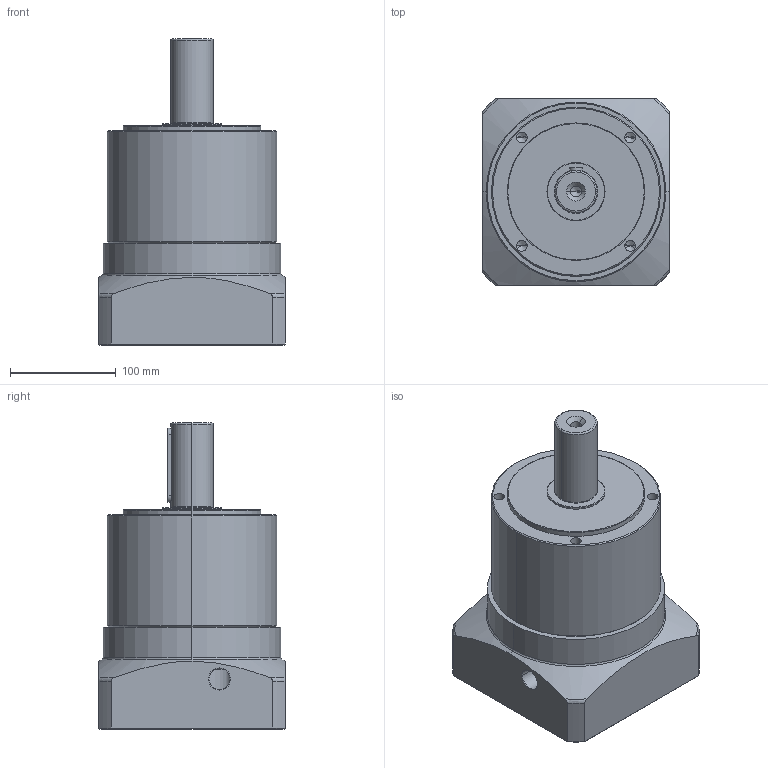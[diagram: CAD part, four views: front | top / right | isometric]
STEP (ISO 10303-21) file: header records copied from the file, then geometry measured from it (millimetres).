
FILE_DESCRIPTION (( 'STEP AP214' ), '1' );
FILE_NAME ('PL160-L1-35×80-114.3-200M12 三维零件图.STEP', '2021-08-06T06:21:50', ( 'XJJ' ), ( '' ), 'SwSTEP 2.0', 'SolidWorks 2016', '' );
FILE_SCHEMA (( 'AUTOMOTIVE_DESIGN' ));
Length unit declared in the file: millimetre
Products named in the file (3): PL160-L1-35×80-114.3-200M12 三维外形图; PL160-L1-35×80-114.3-200M12 三维零件图; hexagon socket head cap screws gb_GB_FASTENER_SCREWS_HSHCS M10X16-N
Assembly tree (2 placements, depth 2):
  PL160-L1-35×80-114.3-200M12 三维零件图
    PL160-L1-35×80-114.3-200M12 三维外形图
    hexagon socket head cap screws gb_GB_FASTENER_SCREWS_HSHCS M10X16-N
Bounding box: 176 x 176 x 289.5 mm (x, y, z)
Volume: 4439923 mm3; surface area: 230143.7 mm2
Topology: 2 solids, 2 shells, 178 faces, 414 edges, 240 vertices
Faces by surface type: cylinder 62, cone 48, plane 41, torus 27
Entity records: 5885 total; most frequent: CARTESIAN_POINT 1478, DIRECTION 920, ORIENTED_EDGE 788, EDGE_CURVE 394, AXIS2_PLACEMENT_3D 383, VERTEX_POINT 240, EDGE_LOOP 206, CIRCLE 200
